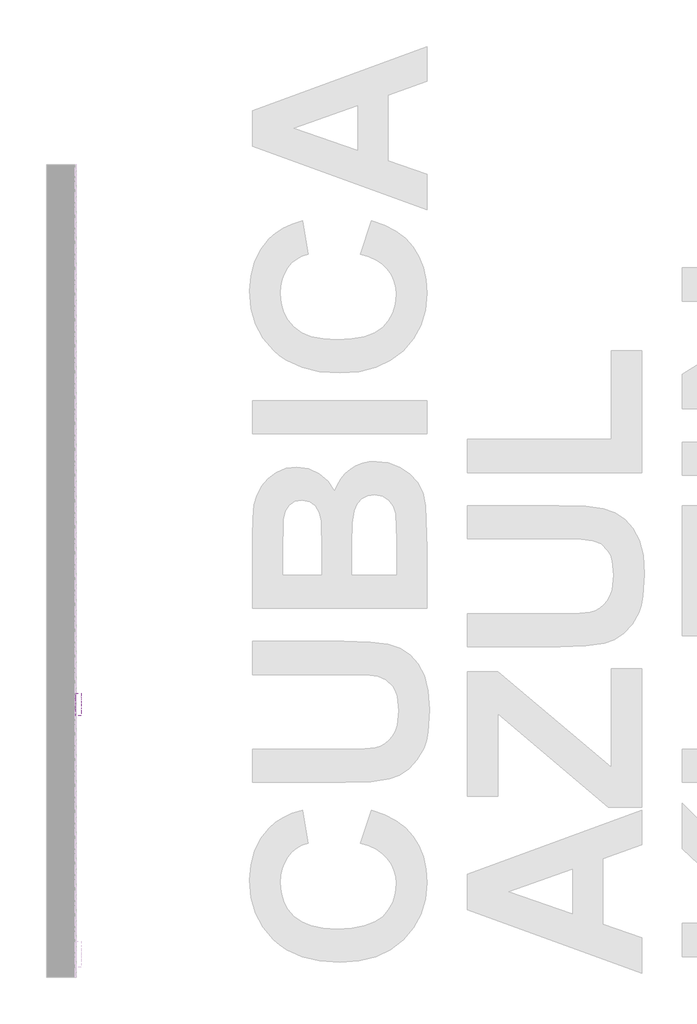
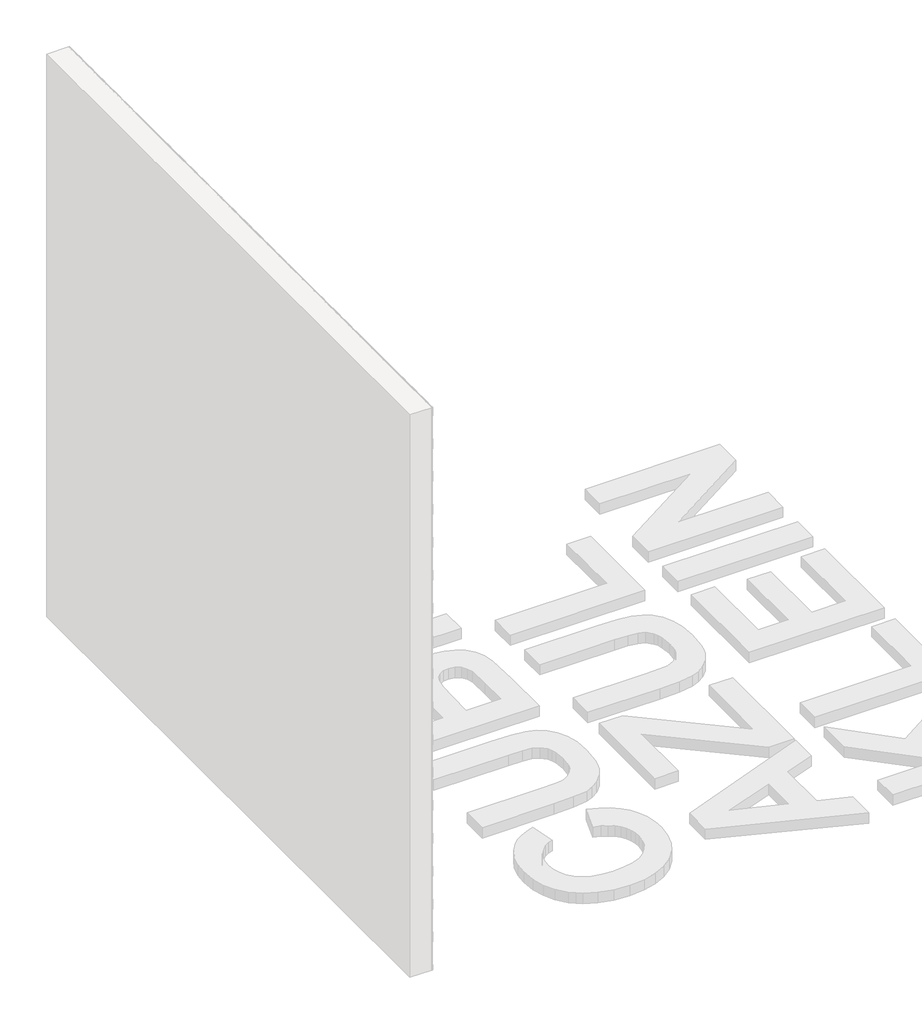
# One storey, part 42 of 121: 118 proxies.
"""IFC4 building model written with IfcOpenShell, lengths in millimetres."""

from ifc_helpers import new_model, si_unit, frame, origin, place, context, project, spatial, polyline, outline, extrude, transform, mapped, element, save
from components import generic_models_b2b2c5c1, generic_models_9bf73f6f, generic_models_5d175859, generic_models_3c04e8e5, generic_models_61989c10, generic_models_7dea52c4, generic_models_336a48c1, generic_models_95f85f1d, generic_models_e1ce04d0

model = new_model("IFC4")

# Units and contexts
model_context = context("Model", 3, world=origin())
ifc_project = project(units=[si_unit("LENGTHUNIT", "METRE", prefix="MILLI")], contexts=[model_context])

# Site, building, storey
site = spatial("IfcSite", under=ifc_project)
building = spatial("IfcBuilding", under=site)
storey = spatial("IfcBuildingStorey", under=building, Name="PORTOBELLO - SHOWROOM", Elevation=0.0)

# Proxies
placement = place(None, origin())
generic_models_shape = generic_models_b2b2c5c1(model_context)
element("IfcBuildingElementProxy", 1, Name="PBSHOP - CUBICA AZUL KLEIN 4,8X8,3 : CUBICA AZUL KLEIN - POSIÇÃO 01", ObjectType="PBSHOP - CUBICA AZUL KLEIN 4,8X8,3 : CUBICA AZUL KLEIN - POSIÇÃO 01", at=placement, inside=storey, context=model_context, shape_type="MappedRepresentation", body=[
    mapped(generic_models_shape, transform((150369.5341846, 2085.8509382, 39.4221668), x_axis=(0.0, 1.0, 0.0), y_axis=(0.0, 0.0, 1.0), z_axis=(1.0, 0.0, 0.0))),
])
element("IfcBuildingElementProxy", 2, Name="PBSHOP - CUBICA AZUL KLEIN 4,8X8,3 : CUBICA AZUL KLEIN - POSIÇÃO 01", ObjectType="PBSHOP - CUBICA AZUL KLEIN 4,8X8,3 : CUBICA AZUL KLEIN - POSIÇÃO 01", at=placement, inside=storey, context=model_context, shape_type="MappedRepresentation", body=[
    mapped(generic_models_shape, transform((150369.5341846, 2176.6902074, 39.4221668), x_axis=(0.0, 1.0, 0.0), y_axis=(0.0, 0.0, 1.0), z_axis=(1.0, 0.0, 0.0))),
])
element("IfcBuildingElementProxy", 3, Name="PBSHOP - CUBICA AZUL KLEIN 4,8X8,3 : CUBICA AZUL KLEIN - POSIÇÃO 01", ObjectType="PBSHOP - CUBICA AZUL KLEIN 4,8X8,3 : CUBICA AZUL KLEIN - POSIÇÃO 01", at=placement, inside=storey, context=model_context, shape_type="MappedRepresentation", body=[
    mapped(generic_models_shape, transform((150369.5341846, 2267.5294767, 39.4221668), x_axis=(0.0, 1.0, 0.0), y_axis=(0.0, 0.0, 1.0), z_axis=(1.0, 0.0, 0.0))),
])
element("IfcBuildingElementProxy", 4, Name="PBSHOP - CUBICA AZUL KLEIN 4,8X8,3 : CUBICA AZUL KLEIN - POSIÇÃO 01", ObjectType="PBSHOP - CUBICA AZUL KLEIN 4,8X8,3 : CUBICA AZUL KLEIN - POSIÇÃO 01", at=placement, inside=storey, context=model_context, shape_type="MappedRepresentation", body=[
    mapped(generic_models_shape, transform((150369.5341846, 2358.3687459, 39.4221668), x_axis=(0.0, 1.0, 0.0), y_axis=(0.0, 0.0, 1.0), z_axis=(1.0, 0.0, 0.0))),
])
element("IfcBuildingElementProxy", 5, Name="PBSHOP - CUBICA AZUL KLEIN 4,8X8,3 : CUBICA AZUL KLEIN - POSIÇÃO 01", ObjectType="PBSHOP - CUBICA AZUL KLEIN 4,8X8,3 : CUBICA AZUL KLEIN - POSIÇÃO 01", at=placement, inside=storey, context=model_context, shape_type="MappedRepresentation", body=[
    mapped(generic_models_shape, transform((150369.5341846, 2449.2080152, 39.4221668), x_axis=(0.0, 1.0, 0.0), y_axis=(0.0, 0.0, 1.0), z_axis=(1.0, 0.0, 0.0))),
])
element("IfcBuildingElementProxy", 6, Name="PBSHOP - CUBICA AZUL KLEIN 4,8X8,3 : CUBICA AZUL KLEIN - POSIÇÃO 01", ObjectType="PBSHOP - CUBICA AZUL KLEIN 4,8X8,3 : CUBICA AZUL KLEIN - POSIÇÃO 01", at=placement, inside=storey, context=model_context, shape_type="MappedRepresentation", body=[
    mapped(generic_models_shape, transform((150369.5341846, 2540.0472844, 39.4221668), x_axis=(0.0, 1.0, 0.0), y_axis=(0.0, 0.0, 1.0), z_axis=(1.0, 0.0, 0.0))),
])
element("IfcBuildingElementProxy", 7, Name="PBSHOP - CUBICA AZUL KLEIN 4,8X8,3 : CUBICA AZUL KLEIN - POSIÇÃO 01", ObjectType="PBSHOP - CUBICA AZUL KLEIN 4,8X8,3 : CUBICA AZUL KLEIN - POSIÇÃO 01", at=placement, inside=storey, context=model_context, shape_type="MappedRepresentation", body=[
    mapped(generic_models_shape, transform((150369.5341846, 2630.8865536, 39.4221668), x_axis=(0.0, 1.0, 0.0), y_axis=(0.0, 0.0, 1.0), z_axis=(1.0, 0.0, 0.0))),
])
element("IfcBuildingElementProxy", 8, Name="PBSHOP - CUBICA AZUL KLEIN 4,8X8,3 : CUBICA AZUL KLEIN - POSIÇÃO 01", ObjectType="PBSHOP - CUBICA AZUL KLEIN 4,8X8,3 : CUBICA AZUL KLEIN - POSIÇÃO 01", at=placement, inside=storey, context=model_context, shape_type="MappedRepresentation", body=[
    mapped(generic_models_shape, transform((150369.5341846, 2721.7258229, 39.4221668), x_axis=(0.0, 1.0, 0.0), y_axis=(0.0, 0.0, 1.0), z_axis=(1.0, 0.0, 0.0))),
])
element("IfcBuildingElementProxy", 9, Name="PBSHOP - CUBICA AZUL KLEIN 4,8X8,3 : CUBICA AZUL KLEIN - POSIÇÃO 01", ObjectType="PBSHOP - CUBICA AZUL KLEIN 4,8X8,3 : CUBICA AZUL KLEIN - POSIÇÃO 01", at=placement, inside=storey, context=model_context, shape_type="MappedRepresentation", body=[
    mapped(generic_models_shape, transform((150369.5341846, 2040.4313036, 118.3568052), x_axis=(0.0, 1.0, 0.0), y_axis=(0.0, 0.0, 1.0), z_axis=(1.0, 0.0, 0.0))),
])
element("IfcBuildingElementProxy", 10, Name="PBSHOP - CUBICA AZUL KLEIN 4,8X8,3 : CUBICA AZUL KLEIN - POSIÇÃO 01", ObjectType="PBSHOP - CUBICA AZUL KLEIN 4,8X8,3 : CUBICA AZUL KLEIN - POSIÇÃO 01", at=placement, inside=storey, context=model_context, shape_type="MappedRepresentation", body=[
    mapped(generic_models_shape, transform((150369.5341846, 2131.2705728, 118.3568052), x_axis=(0.0, 1.0, 0.0), y_axis=(0.0, 0.0, 1.0), z_axis=(1.0, 0.0, 0.0))),
])
element("IfcBuildingElementProxy", 11, Name="PBSHOP - CUBICA AZUL KLEIN 4,8X8,3 : CUBICA AZUL KLEIN - POSIÇÃO 01", ObjectType="PBSHOP - CUBICA AZUL KLEIN 4,8X8,3 : CUBICA AZUL KLEIN - POSIÇÃO 01", at=placement, inside=storey, context=model_context, shape_type="MappedRepresentation", body=[
    mapped(generic_models_shape, transform((150369.5341846, 2222.109842, 118.3568052), x_axis=(0.0, 1.0, 0.0), y_axis=(0.0, 0.0, 1.0), z_axis=(1.0, 0.0, 0.0))),
])
element("IfcBuildingElementProxy", 12, Name="PBSHOP - CUBICA AZUL KLEIN 4,8X8,3 : CUBICA AZUL KLEIN - POSIÇÃO 01", ObjectType="PBSHOP - CUBICA AZUL KLEIN 4,8X8,3 : CUBICA AZUL KLEIN - POSIÇÃO 01", at=placement, inside=storey, context=model_context, shape_type="MappedRepresentation", body=[
    mapped(generic_models_shape, transform((150369.5341846, 2312.9491113, 118.3568052), x_axis=(0.0, 1.0, 0.0), y_axis=(0.0, 0.0, 1.0), z_axis=(1.0, 0.0, 0.0))),
])
element("IfcBuildingElementProxy", 13, Name="PBSHOP - CUBICA AZUL KLEIN 4,8X8,3 : CUBICA AZUL KLEIN - POSIÇÃO 01", ObjectType="PBSHOP - CUBICA AZUL KLEIN 4,8X8,3 : CUBICA AZUL KLEIN - POSIÇÃO 01", at=placement, inside=storey, context=model_context, shape_type="MappedRepresentation", body=[
    mapped(generic_models_shape, transform((150369.5341846, 2403.7883805, 118.3568052), x_axis=(0.0, 1.0, 0.0), y_axis=(0.0, 0.0, 1.0), z_axis=(1.0, 0.0, 0.0))),
])
element("IfcBuildingElementProxy", 14, Name="PBSHOP - CUBICA AZUL KLEIN 4,8X8,3 : CUBICA AZUL KLEIN - POSIÇÃO 01", ObjectType="PBSHOP - CUBICA AZUL KLEIN 4,8X8,3 : CUBICA AZUL KLEIN - POSIÇÃO 01", at=placement, inside=storey, context=model_context, shape_type="MappedRepresentation", body=[
    mapped(generic_models_shape, transform((150369.5341846, 2494.6276498, 118.3568052), x_axis=(0.0, 1.0, 0.0), y_axis=(0.0, 0.0, 1.0), z_axis=(1.0, 0.0, 0.0))),
])
element("IfcBuildingElementProxy", 15, Name="PBSHOP - CUBICA AZUL KLEIN 4,8X8,3 : CUBICA AZUL KLEIN - POSIÇÃO 01", ObjectType="PBSHOP - CUBICA AZUL KLEIN 4,8X8,3 : CUBICA AZUL KLEIN - POSIÇÃO 01", at=placement, inside=storey, context=model_context, shape_type="MappedRepresentation", body=[
    mapped(generic_models_shape, transform((150369.5341846, 2585.466919, 118.3568052), x_axis=(0.0, 1.0, 0.0), y_axis=(0.0, 0.0, 1.0), z_axis=(1.0, 0.0, 0.0))),
])
element("IfcBuildingElementProxy", 16, Name="PBSHOP - CUBICA AZUL KLEIN 4,8X8,3 : CUBICA AZUL KLEIN - POSIÇÃO 01", ObjectType="PBSHOP - CUBICA AZUL KLEIN 4,8X8,3 : CUBICA AZUL KLEIN - POSIÇÃO 01", at=placement, inside=storey, context=model_context, shape_type="MappedRepresentation", body=[
    mapped(generic_models_shape, transform((150369.5341846, 2676.3061883, 118.3568052), x_axis=(0.0, 1.0, 0.0), y_axis=(0.0, 0.0, 1.0), z_axis=(1.0, 0.0, 0.0))),
])
element("IfcBuildingElementProxy", 17, Name="PBSHOP - CUBICA AZUL KLEIN 4,8X8,3 : CUBICA AZUL KLEIN - POSIÇÃO 01", ObjectType="PBSHOP - CUBICA AZUL KLEIN 4,8X8,3 : CUBICA AZUL KLEIN - POSIÇÃO 01", at=placement, inside=storey, context=model_context, shape_type="MappedRepresentation", body=[
    mapped(generic_models_shape, transform((150369.5341846, 2767.1454575, 118.3568052), x_axis=(0.0, 1.0, 0.0), y_axis=(0.0, 0.0, 1.0), z_axis=(1.0, 0.0, 0.0))),
])
element("IfcBuildingElementProxy", 18, Name="PBSHOP - CUBICA AZUL KLEIN 4,8X8,3 : CUBICA AZUL KLEIN - POSIÇÃO 01", ObjectType="PBSHOP - CUBICA AZUL KLEIN 4,8X8,3 : CUBICA AZUL KLEIN - POSIÇÃO 01", at=placement, inside=storey, context=model_context, shape_type="MappedRepresentation", body=[
    mapped(generic_models_shape, transform((150369.5341846, 2085.8509382, 197.2914436), x_axis=(0.0, 1.0, 0.0), y_axis=(0.0, 0.0, 1.0), z_axis=(1.0, 0.0, 0.0))),
])
element("IfcBuildingElementProxy", 19, Name="PBSHOP - CUBICA AZUL KLEIN 4,8X8,3 : CUBICA AZUL KLEIN - POSIÇÃO 01", ObjectType="PBSHOP - CUBICA AZUL KLEIN 4,8X8,3 : CUBICA AZUL KLEIN - POSIÇÃO 01", at=placement, inside=storey, context=model_context, shape_type="MappedRepresentation", body=[
    mapped(generic_models_shape, transform((150369.5341846, 2176.6902074, 197.2914436), x_axis=(0.0, 1.0, 0.0), y_axis=(0.0, 0.0, 1.0), z_axis=(1.0, 0.0, 0.0))),
])
element("IfcBuildingElementProxy", 20, Name="PBSHOP - CUBICA AZUL KLEIN 4,8X8,3 : CUBICA AZUL KLEIN - POSIÇÃO 01", ObjectType="PBSHOP - CUBICA AZUL KLEIN 4,8X8,3 : CUBICA AZUL KLEIN - POSIÇÃO 01", at=placement, inside=storey, context=model_context, shape_type="MappedRepresentation", body=[
    mapped(generic_models_shape, transform((150369.5341846, 2267.5294767, 197.2914436), x_axis=(0.0, 1.0, 0.0), y_axis=(0.0, 0.0, 1.0), z_axis=(1.0, 0.0, 0.0))),
])
element("IfcBuildingElementProxy", 21, Name="PBSHOP - CUBICA AZUL KLEIN 4,8X8,3 : CUBICA AZUL KLEIN - POSIÇÃO 01", ObjectType="PBSHOP - CUBICA AZUL KLEIN 4,8X8,3 : CUBICA AZUL KLEIN - POSIÇÃO 01", at=placement, inside=storey, context=model_context, shape_type="MappedRepresentation", body=[
    mapped(generic_models_shape, transform((150369.5341846, 2358.3687459, 197.2914436), x_axis=(0.0, 1.0, 0.0), y_axis=(0.0, 0.0, 1.0), z_axis=(1.0, 0.0, 0.0))),
])
element("IfcBuildingElementProxy", 22, Name="PBSHOP - CUBICA AZUL KLEIN 4,8X8,3 : CUBICA AZUL KLEIN - POSIÇÃO 01", ObjectType="PBSHOP - CUBICA AZUL KLEIN 4,8X8,3 : CUBICA AZUL KLEIN - POSIÇÃO 01", at=placement, inside=storey, context=model_context, shape_type="MappedRepresentation", body=[
    mapped(generic_models_shape, transform((150369.5341846, 2449.2080152, 197.2914436), x_axis=(0.0, 1.0, 0.0), y_axis=(0.0, 0.0, 1.0), z_axis=(1.0, 0.0, 0.0))),
])
element("IfcBuildingElementProxy", 23, Name="PBSHOP - CUBICA AZUL KLEIN 4,8X8,3 : CUBICA AZUL KLEIN - POSIÇÃO 01", ObjectType="PBSHOP - CUBICA AZUL KLEIN 4,8X8,3 : CUBICA AZUL KLEIN - POSIÇÃO 01", at=placement, inside=storey, context=model_context, shape_type="MappedRepresentation", body=[
    mapped(generic_models_shape, transform((150369.5341846, 2540.0472844, 197.2914436), x_axis=(0.0, 1.0, 0.0), y_axis=(0.0, 0.0, 1.0), z_axis=(1.0, 0.0, 0.0))),
])
element("IfcBuildingElementProxy", 24, Name="PBSHOP - CUBICA AZUL KLEIN 4,8X8,3 : CUBICA AZUL KLEIN - POSIÇÃO 01", ObjectType="PBSHOP - CUBICA AZUL KLEIN 4,8X8,3 : CUBICA AZUL KLEIN - POSIÇÃO 01", at=placement, inside=storey, context=model_context, shape_type="MappedRepresentation", body=[
    mapped(generic_models_shape, transform((150369.5341846, 2630.8865536, 197.2914436), x_axis=(0.0, 1.0, 0.0), y_axis=(0.0, 0.0, 1.0), z_axis=(1.0, 0.0, 0.0))),
])
element("IfcBuildingElementProxy", 25, Name="PBSHOP - CUBICA AZUL KLEIN 4,8X8,3 : CUBICA AZUL KLEIN - POSIÇÃO 01", ObjectType="PBSHOP - CUBICA AZUL KLEIN 4,8X8,3 : CUBICA AZUL KLEIN - POSIÇÃO 01", at=placement, inside=storey, context=model_context, shape_type="MappedRepresentation", body=[
    mapped(generic_models_shape, transform((150369.5341846, 2721.7258229, 197.2914436), x_axis=(0.0, 1.0, 0.0), y_axis=(0.0, 0.0, 1.0), z_axis=(1.0, 0.0, 0.0))),
])
element("IfcBuildingElementProxy", 26, Name="PBSHOP - CUBICA AZUL KLEIN 4,8X8,3 : CUBICA AZUL KLEIN - POSIÇÃO 01", ObjectType="PBSHOP - CUBICA AZUL KLEIN 4,8X8,3 : CUBICA AZUL KLEIN - POSIÇÃO 01", at=placement, inside=storey, context=model_context, shape_type="MappedRepresentation", body=[
    mapped(generic_models_shape, transform((150369.5341846, 2040.4313036, 276.2260819), x_axis=(0.0, 1.0, 0.0), y_axis=(0.0, 0.0, 1.0), z_axis=(1.0, 0.0, 0.0))),
])
element("IfcBuildingElementProxy", 27, Name="PBSHOP - CUBICA AZUL KLEIN 4,8X8,3 : CUBICA AZUL KLEIN - POSIÇÃO 01", ObjectType="PBSHOP - CUBICA AZUL KLEIN 4,8X8,3 : CUBICA AZUL KLEIN - POSIÇÃO 01", at=placement, inside=storey, context=model_context, shape_type="MappedRepresentation", body=[
    mapped(generic_models_shape, transform((150369.5341846, 2131.2705728, 276.2260819), x_axis=(0.0, 1.0, 0.0), y_axis=(0.0, 0.0, 1.0), z_axis=(1.0, 0.0, 0.0))),
])
element("IfcBuildingElementProxy", 28, Name="PBSHOP - CUBICA AZUL KLEIN 4,8X8,3 : CUBICA AZUL KLEIN - POSIÇÃO 01", ObjectType="PBSHOP - CUBICA AZUL KLEIN 4,8X8,3 : CUBICA AZUL KLEIN - POSIÇÃO 01", at=placement, inside=storey, context=model_context, shape_type="MappedRepresentation", body=[
    mapped(generic_models_shape, transform((150369.5341846, 2222.109842, 276.2260819), x_axis=(0.0, 1.0, 0.0), y_axis=(0.0, 0.0, 1.0), z_axis=(1.0, 0.0, 0.0))),
])
element("IfcBuildingElementProxy", 29, Name="PBSHOP - CUBICA AZUL KLEIN 4,8X8,3 : CUBICA AZUL KLEIN - POSIÇÃO 01", ObjectType="PBSHOP - CUBICA AZUL KLEIN 4,8X8,3 : CUBICA AZUL KLEIN - POSIÇÃO 01", at=placement, inside=storey, context=model_context, shape_type="MappedRepresentation", body=[
    mapped(generic_models_shape, transform((150369.5341846, 2312.9491113, 276.2260819), x_axis=(0.0, 1.0, 0.0), y_axis=(0.0, 0.0, 1.0), z_axis=(1.0, 0.0, 0.0))),
])
element("IfcBuildingElementProxy", 30, Name="PBSHOP - CUBICA AZUL KLEIN 4,8X8,3 : CUBICA AZUL KLEIN - POSIÇÃO 01", ObjectType="PBSHOP - CUBICA AZUL KLEIN 4,8X8,3 : CUBICA AZUL KLEIN - POSIÇÃO 01", at=placement, inside=storey, context=model_context, shape_type="MappedRepresentation", body=[
    mapped(generic_models_shape, transform((150369.5341846, 2403.7883805, 276.2260819), x_axis=(0.0, 1.0, 0.0), y_axis=(0.0, 0.0, 1.0), z_axis=(1.0, 0.0, 0.0))),
])
element("IfcBuildingElementProxy", 31, Name="PBSHOP - CUBICA AZUL KLEIN 4,8X8,3 : CUBICA AZUL KLEIN - POSIÇÃO 01", ObjectType="PBSHOP - CUBICA AZUL KLEIN 4,8X8,3 : CUBICA AZUL KLEIN - POSIÇÃO 01", at=placement, inside=storey, context=model_context, shape_type="MappedRepresentation", body=[
    mapped(generic_models_shape, transform((150369.5341846, 2494.6276498, 276.2260819), x_axis=(0.0, 1.0, 0.0), y_axis=(0.0, 0.0, 1.0), z_axis=(1.0, 0.0, 0.0))),
])
element("IfcBuildingElementProxy", 32, Name="PBSHOP - CUBICA AZUL KLEIN 4,8X8,3 : CUBICA AZUL KLEIN - POSIÇÃO 01", ObjectType="PBSHOP - CUBICA AZUL KLEIN 4,8X8,3 : CUBICA AZUL KLEIN - POSIÇÃO 01", at=placement, inside=storey, context=model_context, shape_type="MappedRepresentation", body=[
    mapped(generic_models_shape, transform((150369.5341846, 2585.466919, 276.2260819), x_axis=(0.0, 1.0, 0.0), y_axis=(0.0, 0.0, 1.0), z_axis=(1.0, 0.0, 0.0))),
])
element("IfcBuildingElementProxy", 33, Name="PBSHOP - CUBICA AZUL KLEIN 4,8X8,3 : CUBICA AZUL KLEIN - POSIÇÃO 01", ObjectType="PBSHOP - CUBICA AZUL KLEIN 4,8X8,3 : CUBICA AZUL KLEIN - POSIÇÃO 01", at=placement, inside=storey, context=model_context, shape_type="MappedRepresentation", body=[
    mapped(generic_models_shape, transform((150369.5341846, 2676.3061883, 276.2260819), x_axis=(0.0, 1.0, 0.0), y_axis=(0.0, 0.0, 1.0), z_axis=(1.0, 0.0, 0.0))),
])
element("IfcBuildingElementProxy", 34, Name="PBSHOP - CUBICA AZUL KLEIN 4,8X8,3 : CUBICA AZUL KLEIN - POSIÇÃO 01", ObjectType="PBSHOP - CUBICA AZUL KLEIN 4,8X8,3 : CUBICA AZUL KLEIN - POSIÇÃO 01", at=placement, inside=storey, context=model_context, shape_type="MappedRepresentation", body=[
    mapped(generic_models_shape, transform((150369.5341846, 2767.1454575, 276.2260819), x_axis=(0.0, 1.0, 0.0), y_axis=(0.0, 0.0, 1.0), z_axis=(1.0, 0.0, 0.0))),
])
element("IfcBuildingElementProxy", 35, Name="PBSHOP - CUBICA AZUL KLEIN 4,8X8,3 : CUBICA AZUL KLEIN - POSIÇÃO 01", ObjectType="PBSHOP - CUBICA AZUL KLEIN 4,8X8,3 : CUBICA AZUL KLEIN - POSIÇÃO 01", at=placement, inside=storey, context=model_context, shape_type="MappedRepresentation", body=[
    mapped(generic_models_shape, transform((150369.5341846, 2085.8509382, 355.1607203), x_axis=(0.0, 1.0, 0.0), y_axis=(0.0, 0.0, 1.0), z_axis=(1.0, 0.0, 0.0))),
])
element("IfcBuildingElementProxy", 36, Name="PBSHOP - CUBICA AZUL KLEIN 4,8X8,3 : CUBICA AZUL KLEIN - POSIÇÃO 01", ObjectType="PBSHOP - CUBICA AZUL KLEIN 4,8X8,3 : CUBICA AZUL KLEIN - POSIÇÃO 01", at=placement, inside=storey, context=model_context, shape_type="MappedRepresentation", body=[
    mapped(generic_models_shape, transform((150369.5341846, 2176.6902074, 355.1607203), x_axis=(0.0, 1.0, 0.0), y_axis=(0.0, 0.0, 1.0), z_axis=(1.0, 0.0, 0.0))),
])
element("IfcBuildingElementProxy", 37, Name="PBSHOP - CUBICA AZUL KLEIN 4,8X8,3 : CUBICA AZUL KLEIN - POSIÇÃO 01", ObjectType="PBSHOP - CUBICA AZUL KLEIN 4,8X8,3 : CUBICA AZUL KLEIN - POSIÇÃO 01", at=placement, inside=storey, context=model_context, shape_type="MappedRepresentation", body=[
    mapped(generic_models_shape, transform((150369.5341846, 2267.5294767, 355.1607203), x_axis=(0.0, 1.0, 0.0), y_axis=(0.0, 0.0, 1.0), z_axis=(1.0, 0.0, 0.0))),
])
generic_models_2_shape = generic_models_9bf73f6f(model_context)
element("IfcBuildingElementProxy", 38, Name="PBSHOP - CUBICA AZUL KLEIN 4,8X8,3 : CUBICA AZUL KLEIN - POSIÇÃO 03", ObjectType="PBSHOP - CUBICA AZUL KLEIN 4,8X8,3 : CUBICA AZUL KLEIN - POSIÇÃO 03", at=placement, inside=storey, context=model_context, shape_type="MappedRepresentation", body=[
    mapped(generic_models_2_shape, transform((150369.5341846, 2017.7236454, 78.8482756), x_axis=(0.0, 1.0, 0.0), y_axis=(0.0, 0.0, 1.0), z_axis=(1.0, 0.0, 0.0))),
])
element("IfcBuildingElementProxy", 39, Name="PBSHOP - CUBICA AZUL KLEIN 4,8X8,3 : CUBICA AZUL KLEIN - POSIÇÃO 03", ObjectType="PBSHOP - CUBICA AZUL KLEIN 4,8X8,3 : CUBICA AZUL KLEIN - POSIÇÃO 03", at=placement, inside=storey, context=model_context, shape_type="MappedRepresentation", body=[
    mapped(generic_models_2_shape, transform((150369.5341846, 2108.5629147, 78.8482756), x_axis=(0.0, 1.0, 0.0), y_axis=(0.0, 0.0, 1.0), z_axis=(1.0, 0.0, 0.0))),
])
element("IfcBuildingElementProxy", 40, Name="PBSHOP - CUBICA AZUL KLEIN 4,8X8,3 : CUBICA AZUL KLEIN - POSIÇÃO 03", ObjectType="PBSHOP - CUBICA AZUL KLEIN 4,8X8,3 : CUBICA AZUL KLEIN - POSIÇÃO 03", at=placement, inside=storey, context=model_context, shape_type="MappedRepresentation", body=[
    mapped(generic_models_2_shape, transform((150369.5341846, 2199.4021839, 78.8482756), x_axis=(0.0, 1.0, 0.0), y_axis=(0.0, 0.0, 1.0), z_axis=(1.0, 0.0, 0.0))),
])
element("IfcBuildingElementProxy", 41, Name="PBSHOP - CUBICA AZUL KLEIN 4,8X8,3 : CUBICA AZUL KLEIN - POSIÇÃO 03", ObjectType="PBSHOP - CUBICA AZUL KLEIN 4,8X8,3 : CUBICA AZUL KLEIN - POSIÇÃO 03", at=placement, inside=storey, context=model_context, shape_type="MappedRepresentation", body=[
    mapped(generic_models_2_shape, transform((150369.5341846, 2290.2414531, 78.8482756), x_axis=(0.0, 1.0, 0.0), y_axis=(0.0, 0.0, 1.0), z_axis=(1.0, 0.0, 0.0))),
])
element("IfcBuildingElementProxy", 42, Name="PBSHOP - CUBICA AZUL KLEIN 4,8X8,3 : CUBICA AZUL KLEIN - POSIÇÃO 03", ObjectType="PBSHOP - CUBICA AZUL KLEIN 4,8X8,3 : CUBICA AZUL KLEIN - POSIÇÃO 03", at=placement, inside=storey, context=model_context, shape_type="MappedRepresentation", body=[
    mapped(generic_models_2_shape, transform((150369.5341846, 2381.0807224, 78.8482756), x_axis=(0.0, 1.0, 0.0), y_axis=(0.0, 0.0, 1.0), z_axis=(1.0, 0.0, 0.0))),
])
element("IfcBuildingElementProxy", 43, Name="PBSHOP - CUBICA AZUL KLEIN 4,8X8,3 : CUBICA AZUL KLEIN - POSIÇÃO 03", ObjectType="PBSHOP - CUBICA AZUL KLEIN 4,8X8,3 : CUBICA AZUL KLEIN - POSIÇÃO 03", at=placement, inside=storey, context=model_context, shape_type="MappedRepresentation", body=[
    mapped(generic_models_2_shape, transform((150369.5341846, 2471.9199916, 78.8482756), x_axis=(0.0, 1.0, 0.0), y_axis=(0.0, 0.0, 1.0), z_axis=(1.0, 0.0, 0.0))),
])
element("IfcBuildingElementProxy", 44, Name="PBSHOP - CUBICA AZUL KLEIN 4,8X8,3 : CUBICA AZUL KLEIN - POSIÇÃO 03", ObjectType="PBSHOP - CUBICA AZUL KLEIN 4,8X8,3 : CUBICA AZUL KLEIN - POSIÇÃO 03", at=placement, inside=storey, context=model_context, shape_type="MappedRepresentation", body=[
    mapped(generic_models_2_shape, transform((150369.5341846, 2562.7592609, 78.8482756), x_axis=(0.0, 1.0, 0.0), y_axis=(0.0, 0.0, 1.0), z_axis=(1.0, 0.0, 0.0))),
])
element("IfcBuildingElementProxy", 45, Name="PBSHOP - CUBICA AZUL KLEIN 4,8X8,3 : CUBICA AZUL KLEIN - POSIÇÃO 03", ObjectType="PBSHOP - CUBICA AZUL KLEIN 4,8X8,3 : CUBICA AZUL KLEIN - POSIÇÃO 03", at=placement, inside=storey, context=model_context, shape_type="MappedRepresentation", body=[
    mapped(generic_models_2_shape, transform((150369.5341846, 2653.5985301, 78.8482756), x_axis=(0.0, 1.0, 0.0), y_axis=(0.0, 0.0, 1.0), z_axis=(1.0, 0.0, 0.0))),
])
element("IfcBuildingElementProxy", 46, Name="PBSHOP - CUBICA AZUL KLEIN 4,8X8,3 : CUBICA AZUL KLEIN - POSIÇÃO 03", ObjectType="PBSHOP - CUBICA AZUL KLEIN 4,8X8,3 : CUBICA AZUL KLEIN - POSIÇÃO 03", at=placement, inside=storey, context=model_context, shape_type="MappedRepresentation", body=[
    mapped(generic_models_2_shape, transform((150369.5341846, 2744.4377994, 78.8482756), x_axis=(0.0, 1.0, 0.0), y_axis=(0.0, 0.0, 1.0), z_axis=(1.0, 0.0, 0.0))),
])
element("IfcBuildingElementProxy", 47, Name="PBSHOP - CUBICA AZUL KLEIN 4,8X8,3 : CUBICA AZUL KLEIN - POSIÇÃO 03", ObjectType="PBSHOP - CUBICA AZUL KLEIN 4,8X8,3 : CUBICA AZUL KLEIN - POSIÇÃO 03", at=placement, inside=storey, context=model_context, shape_type="MappedRepresentation", body=[
    mapped(generic_models_2_shape, transform((150369.5341846, 2063.14328, 157.7829139), x_axis=(0.0, 1.0, 0.0), y_axis=(0.0, 0.0, 1.0), z_axis=(1.0, 0.0, 0.0))),
])
element("IfcBuildingElementProxy", 48, Name="PBSHOP - CUBICA AZUL KLEIN 4,8X8,3 : CUBICA AZUL KLEIN - POSIÇÃO 03", ObjectType="PBSHOP - CUBICA AZUL KLEIN 4,8X8,3 : CUBICA AZUL KLEIN - POSIÇÃO 03", at=placement, inside=storey, context=model_context, shape_type="MappedRepresentation", body=[
    mapped(generic_models_2_shape, transform((150369.5341846, 2153.9825493, 157.7829139), x_axis=(0.0, 1.0, 0.0), y_axis=(0.0, 0.0, 1.0), z_axis=(1.0, 0.0, 0.0))),
])
element("IfcBuildingElementProxy", 49, Name="PBSHOP - CUBICA AZUL KLEIN 4,8X8,3 : CUBICA AZUL KLEIN - POSIÇÃO 03", ObjectType="PBSHOP - CUBICA AZUL KLEIN 4,8X8,3 : CUBICA AZUL KLEIN - POSIÇÃO 03", at=placement, inside=storey, context=model_context, shape_type="MappedRepresentation", body=[
    mapped(generic_models_2_shape, transform((150369.5341846, 2244.8218185, 157.7829139), x_axis=(0.0, 1.0, 0.0), y_axis=(0.0, 0.0, 1.0), z_axis=(1.0, 0.0, 0.0))),
])
element("IfcBuildingElementProxy", 50, Name="PBSHOP - CUBICA AZUL KLEIN 4,8X8,3 : CUBICA AZUL KLEIN - POSIÇÃO 03", ObjectType="PBSHOP - CUBICA AZUL KLEIN 4,8X8,3 : CUBICA AZUL KLEIN - POSIÇÃO 03", at=placement, inside=storey, context=model_context, shape_type="MappedRepresentation", body=[
    mapped(generic_models_2_shape, transform((150369.5341846, 2335.6610878, 157.7829139), x_axis=(0.0, 1.0, 0.0), y_axis=(0.0, 0.0, 1.0), z_axis=(1.0, 0.0, 0.0))),
])
element("IfcBuildingElementProxy", 51, Name="PBSHOP - CUBICA AZUL KLEIN 4,8X8,3 : CUBICA AZUL KLEIN - POSIÇÃO 03", ObjectType="PBSHOP - CUBICA AZUL KLEIN 4,8X8,3 : CUBICA AZUL KLEIN - POSIÇÃO 03", at=placement, inside=storey, context=model_context, shape_type="MappedRepresentation", body=[
    mapped(generic_models_2_shape, transform((150369.5341846, 2426.500357, 157.7829139), x_axis=(0.0, 1.0, 0.0), y_axis=(0.0, 0.0, 1.0), z_axis=(1.0, 0.0, 0.0))),
])
element("IfcBuildingElementProxy", 52, Name="PBSHOP - CUBICA AZUL KLEIN 4,8X8,3 : CUBICA AZUL KLEIN - POSIÇÃO 03", ObjectType="PBSHOP - CUBICA AZUL KLEIN 4,8X8,3 : CUBICA AZUL KLEIN - POSIÇÃO 03", at=placement, inside=storey, context=model_context, shape_type="MappedRepresentation", body=[
    mapped(generic_models_2_shape, transform((150369.5341846, 2517.3396263, 157.7829139), x_axis=(0.0, 1.0, 0.0), y_axis=(0.0, 0.0, 1.0), z_axis=(1.0, 0.0, 0.0))),
])
element("IfcBuildingElementProxy", 53, Name="PBSHOP - CUBICA AZUL KLEIN 4,8X8,3 : CUBICA AZUL KLEIN - POSIÇÃO 03", ObjectType="PBSHOP - CUBICA AZUL KLEIN 4,8X8,3 : CUBICA AZUL KLEIN - POSIÇÃO 03", at=placement, inside=storey, context=model_context, shape_type="MappedRepresentation", body=[
    mapped(generic_models_2_shape, transform((150369.5341846, 2608.1788955, 157.7829139), x_axis=(0.0, 1.0, 0.0), y_axis=(0.0, 0.0, 1.0), z_axis=(1.0, 0.0, 0.0))),
])
element("IfcBuildingElementProxy", 54, Name="PBSHOP - CUBICA AZUL KLEIN 4,8X8,3 : CUBICA AZUL KLEIN - POSIÇÃO 03", ObjectType="PBSHOP - CUBICA AZUL KLEIN 4,8X8,3 : CUBICA AZUL KLEIN - POSIÇÃO 03", at=placement, inside=storey, context=model_context, shape_type="MappedRepresentation", body=[
    mapped(generic_models_2_shape, transform((150369.5341846, 2699.0181647, 157.7829139), x_axis=(0.0, 1.0, 0.0), y_axis=(0.0, 0.0, 1.0), z_axis=(1.0, 0.0, 0.0))),
])
element("IfcBuildingElementProxy", 55, Name="PBSHOP - CUBICA AZUL KLEIN 4,8X8,3 : CUBICA AZUL KLEIN - POSIÇÃO 03", ObjectType="PBSHOP - CUBICA AZUL KLEIN 4,8X8,3 : CUBICA AZUL KLEIN - POSIÇÃO 03", at=placement, inside=storey, context=model_context, shape_type="MappedRepresentation", body=[
    mapped(generic_models_2_shape, transform((150369.5341846, 2017.7236454, 236.7175523), x_axis=(0.0, 1.0, 0.0), y_axis=(0.0, 0.0, 1.0), z_axis=(1.0, 0.0, 0.0))),
])
element("IfcBuildingElementProxy", 56, Name="PBSHOP - CUBICA AZUL KLEIN 4,8X8,3 : CUBICA AZUL KLEIN - POSIÇÃO 03", ObjectType="PBSHOP - CUBICA AZUL KLEIN 4,8X8,3 : CUBICA AZUL KLEIN - POSIÇÃO 03", at=placement, inside=storey, context=model_context, shape_type="MappedRepresentation", body=[
    mapped(generic_models_2_shape, transform((150369.5341846, 2108.5629147, 236.7175523), x_axis=(0.0, 1.0, 0.0), y_axis=(0.0, 0.0, 1.0), z_axis=(1.0, 0.0, 0.0))),
])
element("IfcBuildingElementProxy", 57, Name="PBSHOP - CUBICA AZUL KLEIN 4,8X8,3 : CUBICA AZUL KLEIN - POSIÇÃO 03", ObjectType="PBSHOP - CUBICA AZUL KLEIN 4,8X8,3 : CUBICA AZUL KLEIN - POSIÇÃO 03", at=placement, inside=storey, context=model_context, shape_type="MappedRepresentation", body=[
    mapped(generic_models_2_shape, transform((150369.5341846, 2199.4021839, 236.7175523), x_axis=(0.0, 1.0, 0.0), y_axis=(0.0, 0.0, 1.0), z_axis=(1.0, 0.0, 0.0))),
])
element("IfcBuildingElementProxy", 58, Name="PBSHOP - CUBICA AZUL KLEIN 4,8X8,3 : CUBICA AZUL KLEIN - POSIÇÃO 03", ObjectType="PBSHOP - CUBICA AZUL KLEIN 4,8X8,3 : CUBICA AZUL KLEIN - POSIÇÃO 03", at=placement, inside=storey, context=model_context, shape_type="MappedRepresentation", body=[
    mapped(generic_models_2_shape, transform((150369.5341846, 2290.2414531, 236.7175523), x_axis=(0.0, 1.0, 0.0), y_axis=(0.0, 0.0, 1.0), z_axis=(1.0, 0.0, 0.0))),
])
element("IfcBuildingElementProxy", 59, Name="PBSHOP - CUBICA AZUL KLEIN 4,8X8,3 : CUBICA AZUL KLEIN - POSIÇÃO 03", ObjectType="PBSHOP - CUBICA AZUL KLEIN 4,8X8,3 : CUBICA AZUL KLEIN - POSIÇÃO 03", at=placement, inside=storey, context=model_context, shape_type="MappedRepresentation", body=[
    mapped(generic_models_2_shape, transform((150369.5341846, 2381.0807224, 236.7175523), x_axis=(0.0, 1.0, 0.0), y_axis=(0.0, 0.0, 1.0), z_axis=(1.0, 0.0, 0.0))),
])
element("IfcBuildingElementProxy", 60, Name="PBSHOP - CUBICA AZUL KLEIN 4,8X8,3 : CUBICA AZUL KLEIN - POSIÇÃO 03", ObjectType="PBSHOP - CUBICA AZUL KLEIN 4,8X8,3 : CUBICA AZUL KLEIN - POSIÇÃO 03", at=placement, inside=storey, context=model_context, shape_type="MappedRepresentation", body=[
    mapped(generic_models_2_shape, transform((150369.5341846, 2471.9199916, 236.7175523), x_axis=(0.0, 1.0, 0.0), y_axis=(0.0, 0.0, 1.0), z_axis=(1.0, 0.0, 0.0))),
])
element("IfcBuildingElementProxy", 61, Name="PBSHOP - CUBICA AZUL KLEIN 4,8X8,3 : CUBICA AZUL KLEIN - POSIÇÃO 03", ObjectType="PBSHOP - CUBICA AZUL KLEIN 4,8X8,3 : CUBICA AZUL KLEIN - POSIÇÃO 03", at=placement, inside=storey, context=model_context, shape_type="MappedRepresentation", body=[
    mapped(generic_models_2_shape, transform((150369.5341846, 2562.7592609, 236.7175523), x_axis=(0.0, 1.0, 0.0), y_axis=(0.0, 0.0, 1.0), z_axis=(1.0, 0.0, 0.0))),
])
element("IfcBuildingElementProxy", 62, Name="PBSHOP - CUBICA AZUL KLEIN 4,8X8,3 : CUBICA AZUL KLEIN - POSIÇÃO 03", ObjectType="PBSHOP - CUBICA AZUL KLEIN 4,8X8,3 : CUBICA AZUL KLEIN - POSIÇÃO 03", at=placement, inside=storey, context=model_context, shape_type="MappedRepresentation", body=[
    mapped(generic_models_2_shape, transform((150369.5341846, 2653.5985301, 236.7175523), x_axis=(0.0, 1.0, 0.0), y_axis=(0.0, 0.0, 1.0), z_axis=(1.0, 0.0, 0.0))),
])
element("IfcBuildingElementProxy", 63, Name="PBSHOP - CUBICA AZUL KLEIN 4,8X8,3 : CUBICA AZUL KLEIN - POSIÇÃO 03", ObjectType="PBSHOP - CUBICA AZUL KLEIN 4,8X8,3 : CUBICA AZUL KLEIN - POSIÇÃO 03", at=placement, inside=storey, context=model_context, shape_type="MappedRepresentation", body=[
    mapped(generic_models_2_shape, transform((150369.5341846, 2744.4377994, 236.7175523), x_axis=(0.0, 1.0, 0.0), y_axis=(0.0, 0.0, 1.0), z_axis=(1.0, 0.0, 0.0))),
])
generic_models_3_shape = generic_models_5d175859(model_context)
element("IfcBuildingElementProxy", 64, Name="PBSHOP - CUBICA AZUL KLEIN 4,8X8,3 : CUBICA AZUL KLEIN - POSIÇÃO 01", ObjectType="PBSHOP - CUBICA AZUL KLEIN 4,8X8,3 : CUBICA AZUL KLEIN - POSIÇÃO 01", at=placement, inside=storey, context=model_context, shape_type="MappedRepresentation", body=[
    mapped(generic_models_3_shape, transform((150369.5341846, 2040.4356219, 39.4221668), x_axis=(0.0, -1.0, 0.0), y_axis=(0.0, 0.0, -1.0), z_axis=(1.0, 0.0, 0.0))),
])
element("IfcBuildingElementProxy", 65, Name="PBSHOP - CUBICA AZUL KLEIN 4,8X8,3 : CUBICA AZUL KLEIN - POSIÇÃO 01", ObjectType="PBSHOP - CUBICA AZUL KLEIN 4,8X8,3 : CUBICA AZUL KLEIN - POSIÇÃO 01", at=placement, inside=storey, context=model_context, shape_type="MappedRepresentation", body=[
    mapped(generic_models_3_shape, transform((150369.5341846, 2131.2748911, 39.4221668), x_axis=(0.0, -1.0, 0.0), y_axis=(0.0, 0.0, -1.0), z_axis=(1.0, 0.0, 0.0))),
])
element("IfcBuildingElementProxy", 66, Name="PBSHOP - CUBICA AZUL KLEIN 4,8X8,3 : CUBICA AZUL KLEIN - POSIÇÃO 01", ObjectType="PBSHOP - CUBICA AZUL KLEIN 4,8X8,3 : CUBICA AZUL KLEIN - POSIÇÃO 01", at=placement, inside=storey, context=model_context, shape_type="MappedRepresentation", body=[
    mapped(generic_models_3_shape, transform((150369.5341846, 2222.1141604, 39.4221668), x_axis=(0.0, -1.0, 0.0), y_axis=(0.0, 0.0, -1.0), z_axis=(1.0, 0.0, 0.0))),
])
element("IfcBuildingElementProxy", 67, Name="PBSHOP - CUBICA AZUL KLEIN 4,8X8,3 : CUBICA AZUL KLEIN - POSIÇÃO 01", ObjectType="PBSHOP - CUBICA AZUL KLEIN 4,8X8,3 : CUBICA AZUL KLEIN - POSIÇÃO 01", at=placement, inside=storey, context=model_context, shape_type="MappedRepresentation", body=[
    mapped(generic_models_3_shape, transform((150369.5341846, 2312.9534296, 39.4221668), x_axis=(0.0, -1.0, 0.0), y_axis=(0.0, 0.0, -1.0), z_axis=(1.0, 0.0, 0.0))),
])
element("IfcBuildingElementProxy", 68, Name="PBSHOP - CUBICA AZUL KLEIN 4,8X8,3 : CUBICA AZUL KLEIN - POSIÇÃO 01", ObjectType="PBSHOP - CUBICA AZUL KLEIN 4,8X8,3 : CUBICA AZUL KLEIN - POSIÇÃO 01", at=placement, inside=storey, context=model_context, shape_type="MappedRepresentation", body=[
    mapped(generic_models_3_shape, transform((150369.5341846, 2403.7926989, 39.4221668), x_axis=(0.0, -1.0, 0.0), y_axis=(0.0, 0.0, -1.0), z_axis=(1.0, 0.0, 0.0))),
])
element("IfcBuildingElementProxy", 69, Name="PBSHOP - CUBICA AZUL KLEIN 4,8X8,3 : CUBICA AZUL KLEIN - POSIÇÃO 01", ObjectType="PBSHOP - CUBICA AZUL KLEIN 4,8X8,3 : CUBICA AZUL KLEIN - POSIÇÃO 01", at=placement, inside=storey, context=model_context, shape_type="MappedRepresentation", body=[
    mapped(generic_models_3_shape, transform((150369.5341846, 2494.6319681, 39.4221668), x_axis=(0.0, -1.0, 0.0), y_axis=(0.0, 0.0, -1.0), z_axis=(1.0, 0.0, 0.0))),
])
element("IfcBuildingElementProxy", 70, Name="PBSHOP - CUBICA AZUL KLEIN 4,8X8,3 : CUBICA AZUL KLEIN - POSIÇÃO 01", ObjectType="PBSHOP - CUBICA AZUL KLEIN 4,8X8,3 : CUBICA AZUL KLEIN - POSIÇÃO 01", at=placement, inside=storey, context=model_context, shape_type="MappedRepresentation", body=[
    mapped(generic_models_3_shape, transform((150369.5341846, 2585.4712374, 39.4221668), x_axis=(0.0, -1.0, 0.0), y_axis=(0.0, 0.0, -1.0), z_axis=(1.0, 0.0, 0.0))),
])
element("IfcBuildingElementProxy", 71, Name="PBSHOP - CUBICA AZUL KLEIN 4,8X8,3 : CUBICA AZUL KLEIN - POSIÇÃO 01", ObjectType="PBSHOP - CUBICA AZUL KLEIN 4,8X8,3 : CUBICA AZUL KLEIN - POSIÇÃO 01", at=placement, inside=storey, context=model_context, shape_type="MappedRepresentation", body=[
    mapped(generic_models_3_shape, transform((150369.5341846, 2676.3105066, 39.4221668), x_axis=(0.0, -1.0, 0.0), y_axis=(0.0, 0.0, -1.0), z_axis=(1.0, 0.0, 0.0))),
])
element("IfcBuildingElementProxy", 72, Name="PBSHOP - CUBICA AZUL KLEIN 4,8X8,3 : CUBICA AZUL KLEIN - POSIÇÃO 01", ObjectType="PBSHOP - CUBICA AZUL KLEIN 4,8X8,3 : CUBICA AZUL KLEIN - POSIÇÃO 01", at=placement, inside=storey, context=model_context, shape_type="MappedRepresentation", body=[
    mapped(generic_models_3_shape, transform((150369.5341846, 2767.1497758, 39.4221668), x_axis=(0.0, -1.0, 0.0), y_axis=(0.0, 0.0, -1.0), z_axis=(1.0, 0.0, 0.0))),
])
element("IfcBuildingElementProxy", 73, Name="PBSHOP - CUBICA AZUL KLEIN 4,8X8,3 : CUBICA AZUL KLEIN - POSIÇÃO 01", ObjectType="PBSHOP - CUBICA AZUL KLEIN 4,8X8,3 : CUBICA AZUL KLEIN - POSIÇÃO 01", at=placement, inside=storey, context=model_context, shape_type="MappedRepresentation", body=[
    mapped(generic_models_3_shape, transform((150369.5341846, 2085.8552565, 118.3568052), x_axis=(0.0, -1.0, 0.0), y_axis=(0.0, 0.0, -1.0), z_axis=(1.0, 0.0, 0.0))),
])
element("IfcBuildingElementProxy", 74, Name="PBSHOP - CUBICA AZUL KLEIN 4,8X8,3 : CUBICA AZUL KLEIN - POSIÇÃO 01", ObjectType="PBSHOP - CUBICA AZUL KLEIN 4,8X8,3 : CUBICA AZUL KLEIN - POSIÇÃO 01", at=placement, inside=storey, context=model_context, shape_type="MappedRepresentation", body=[
    mapped(generic_models_3_shape, transform((150369.5341846, 2176.6945258, 118.3568052), x_axis=(0.0, -1.0, 0.0), y_axis=(0.0, 0.0, -1.0), z_axis=(1.0, 0.0, 0.0))),
])
element("IfcBuildingElementProxy", 75, Name="PBSHOP - CUBICA AZUL KLEIN 4,8X8,3 : CUBICA AZUL KLEIN - POSIÇÃO 01", ObjectType="PBSHOP - CUBICA AZUL KLEIN 4,8X8,3 : CUBICA AZUL KLEIN - POSIÇÃO 01", at=placement, inside=storey, context=model_context, shape_type="MappedRepresentation", body=[
    mapped(generic_models_3_shape, transform((150369.5341846, 2267.533795, 118.3568052), x_axis=(0.0, -1.0, 0.0), y_axis=(0.0, 0.0, -1.0), z_axis=(1.0, 0.0, 0.0))),
])
element("IfcBuildingElementProxy", 76, Name="PBSHOP - CUBICA AZUL KLEIN 4,8X8,3 : CUBICA AZUL KLEIN - POSIÇÃO 01", ObjectType="PBSHOP - CUBICA AZUL KLEIN 4,8X8,3 : CUBICA AZUL KLEIN - POSIÇÃO 01", at=placement, inside=storey, context=model_context, shape_type="MappedRepresentation", body=[
    mapped(generic_models_3_shape, transform((150369.5341846, 2358.3730642, 118.3568052), x_axis=(0.0, -1.0, 0.0), y_axis=(0.0, 0.0, -1.0), z_axis=(1.0, 0.0, 0.0))),
])
element("IfcBuildingElementProxy", 77, Name="PBSHOP - CUBICA AZUL KLEIN 4,8X8,3 : CUBICA AZUL KLEIN - POSIÇÃO 01", ObjectType="PBSHOP - CUBICA AZUL KLEIN 4,8X8,3 : CUBICA AZUL KLEIN - POSIÇÃO 01", at=placement, inside=storey, context=model_context, shape_type="MappedRepresentation", body=[
    mapped(generic_models_3_shape, transform((150369.5341846, 2449.2123335, 118.3568052), x_axis=(0.0, -1.0, 0.0), y_axis=(0.0, 0.0, -1.0), z_axis=(1.0, 0.0, 0.0))),
])
element("IfcBuildingElementProxy", 78, Name="PBSHOP - CUBICA AZUL KLEIN 4,8X8,3 : CUBICA AZUL KLEIN - POSIÇÃO 01", ObjectType="PBSHOP - CUBICA AZUL KLEIN 4,8X8,3 : CUBICA AZUL KLEIN - POSIÇÃO 01", at=placement, inside=storey, context=model_context, shape_type="MappedRepresentation", body=[
    mapped(generic_models_3_shape, transform((150369.5341846, 2540.0516027, 118.3568052), x_axis=(0.0, -1.0, 0.0), y_axis=(0.0, 0.0, -1.0), z_axis=(1.0, 0.0, 0.0))),
])
element("IfcBuildingElementProxy", 79, Name="PBSHOP - CUBICA AZUL KLEIN 4,8X8,3 : CUBICA AZUL KLEIN - POSIÇÃO 01", ObjectType="PBSHOP - CUBICA AZUL KLEIN 4,8X8,3 : CUBICA AZUL KLEIN - POSIÇÃO 01", at=placement, inside=storey, context=model_context, shape_type="MappedRepresentation", body=[
    mapped(generic_models_3_shape, transform((150369.5341846, 2630.890872, 118.3568052), x_axis=(0.0, -1.0, 0.0), y_axis=(0.0, 0.0, -1.0), z_axis=(1.0, 0.0, 0.0))),
])
element("IfcBuildingElementProxy", 80, Name="PBSHOP - CUBICA AZUL KLEIN 4,8X8,3 : CUBICA AZUL KLEIN - POSIÇÃO 01", ObjectType="PBSHOP - CUBICA AZUL KLEIN 4,8X8,3 : CUBICA AZUL KLEIN - POSIÇÃO 01", at=placement, inside=storey, context=model_context, shape_type="MappedRepresentation", body=[
    mapped(generic_models_3_shape, transform((150369.5341846, 2721.7301412, 118.3568052), x_axis=(0.0, -1.0, 0.0), y_axis=(0.0, 0.0, -1.0), z_axis=(1.0, 0.0, 0.0))),
])
element("IfcBuildingElementProxy", 81, Name="PBSHOP - CUBICA AZUL KLEIN 4,8X8,3 : CUBICA AZUL KLEIN - POSIÇÃO 01", ObjectType="PBSHOP - CUBICA AZUL KLEIN 4,8X8,3 : CUBICA AZUL KLEIN - POSIÇÃO 01", at=placement, inside=storey, context=model_context, shape_type="MappedRepresentation", body=[
    mapped(generic_models_3_shape, transform((150369.5341846, 2040.4356219, 197.2914436), x_axis=(0.0, -1.0, 0.0), y_axis=(0.0, 0.0, -1.0), z_axis=(1.0, 0.0, 0.0))),
])
element("IfcBuildingElementProxy", 82, Name="PBSHOP - CUBICA AZUL KLEIN 4,8X8,3 : CUBICA AZUL KLEIN - POSIÇÃO 01", ObjectType="PBSHOP - CUBICA AZUL KLEIN 4,8X8,3 : CUBICA AZUL KLEIN - POSIÇÃO 01", at=placement, inside=storey, context=model_context, shape_type="MappedRepresentation", body=[
    mapped(generic_models_3_shape, transform((150369.5341846, 2131.2748911, 197.2914436), x_axis=(0.0, -1.0, 0.0), y_axis=(0.0, 0.0, -1.0), z_axis=(1.0, 0.0, 0.0))),
])
element("IfcBuildingElementProxy", 83, Name="PBSHOP - CUBICA AZUL KLEIN 4,8X8,3 : CUBICA AZUL KLEIN - POSIÇÃO 01", ObjectType="PBSHOP - CUBICA AZUL KLEIN 4,8X8,3 : CUBICA AZUL KLEIN - POSIÇÃO 01", at=placement, inside=storey, context=model_context, shape_type="MappedRepresentation", body=[
    mapped(generic_models_3_shape, transform((150369.5341846, 2222.1141604, 197.2914436), x_axis=(0.0, -1.0, 0.0), y_axis=(0.0, 0.0, -1.0), z_axis=(1.0, 0.0, 0.0))),
])
element("IfcBuildingElementProxy", 84, Name="PBSHOP - CUBICA AZUL KLEIN 4,8X8,3 : CUBICA AZUL KLEIN - POSIÇÃO 01", ObjectType="PBSHOP - CUBICA AZUL KLEIN 4,8X8,3 : CUBICA AZUL KLEIN - POSIÇÃO 01", at=placement, inside=storey, context=model_context, shape_type="MappedRepresentation", body=[
    mapped(generic_models_3_shape, transform((150369.5341846, 2312.9534296, 197.2914436), x_axis=(0.0, -1.0, 0.0), y_axis=(0.0, 0.0, -1.0), z_axis=(1.0, 0.0, 0.0))),
])
element("IfcBuildingElementProxy", 85, Name="PBSHOP - CUBICA AZUL KLEIN 4,8X8,3 : CUBICA AZUL KLEIN - POSIÇÃO 01", ObjectType="PBSHOP - CUBICA AZUL KLEIN 4,8X8,3 : CUBICA AZUL KLEIN - POSIÇÃO 01", at=placement, inside=storey, context=model_context, shape_type="MappedRepresentation", body=[
    mapped(generic_models_3_shape, transform((150369.5341846, 2403.7926989, 197.2914436), x_axis=(0.0, -1.0, 0.0), y_axis=(0.0, 0.0, -1.0), z_axis=(1.0, 0.0, 0.0))),
])
element("IfcBuildingElementProxy", 86, Name="PBSHOP - CUBICA AZUL KLEIN 4,8X8,3 : CUBICA AZUL KLEIN - POSIÇÃO 01", ObjectType="PBSHOP - CUBICA AZUL KLEIN 4,8X8,3 : CUBICA AZUL KLEIN - POSIÇÃO 01", at=placement, inside=storey, context=model_context, shape_type="MappedRepresentation", body=[
    mapped(generic_models_3_shape, transform((150369.5341846, 2494.6319681, 197.2914436), x_axis=(0.0, -1.0, 0.0), y_axis=(0.0, 0.0, -1.0), z_axis=(1.0, 0.0, 0.0))),
])
element("IfcBuildingElementProxy", 87, Name="PBSHOP - CUBICA AZUL KLEIN 4,8X8,3 : CUBICA AZUL KLEIN - POSIÇÃO 01", ObjectType="PBSHOP - CUBICA AZUL KLEIN 4,8X8,3 : CUBICA AZUL KLEIN - POSIÇÃO 01", at=placement, inside=storey, context=model_context, shape_type="MappedRepresentation", body=[
    mapped(generic_models_3_shape, transform((150369.5341846, 2585.4712374, 197.2914436), x_axis=(0.0, -1.0, 0.0), y_axis=(0.0, 0.0, -1.0), z_axis=(1.0, 0.0, 0.0))),
])
element("IfcBuildingElementProxy", 88, Name="PBSHOP - CUBICA AZUL KLEIN 4,8X8,3 : CUBICA AZUL KLEIN - POSIÇÃO 01", ObjectType="PBSHOP - CUBICA AZUL KLEIN 4,8X8,3 : CUBICA AZUL KLEIN - POSIÇÃO 01", at=placement, inside=storey, context=model_context, shape_type="MappedRepresentation", body=[
    mapped(generic_models_3_shape, transform((150369.5341846, 2676.3105066, 197.2914436), x_axis=(0.0, -1.0, 0.0), y_axis=(0.0, 0.0, -1.0), z_axis=(1.0, 0.0, 0.0))),
])
element("IfcBuildingElementProxy", 89, Name="PBSHOP - CUBICA AZUL KLEIN 4,8X8,3 : CUBICA AZUL KLEIN - POSIÇÃO 01", ObjectType="PBSHOP - CUBICA AZUL KLEIN 4,8X8,3 : CUBICA AZUL KLEIN - POSIÇÃO 01", at=placement, inside=storey, context=model_context, shape_type="MappedRepresentation", body=[
    mapped(generic_models_3_shape, transform((150369.5341846, 2767.1497758, 197.2914436), x_axis=(0.0, -1.0, 0.0), y_axis=(0.0, 0.0, -1.0), z_axis=(1.0, 0.0, 0.0))),
])
element("IfcBuildingElementProxy", 90, Name="PBSHOP - CUBICA AZUL KLEIN 4,8X8,3 : CUBICA AZUL KLEIN - POSIÇÃO 01", ObjectType="PBSHOP - CUBICA AZUL KLEIN 4,8X8,3 : CUBICA AZUL KLEIN - POSIÇÃO 01", at=placement, inside=storey, context=model_context, shape_type="MappedRepresentation", body=[
    mapped(generic_models_3_shape, transform((150369.5341846, 2085.8552565, 276.2260819), x_axis=(0.0, -1.0, 0.0), y_axis=(0.0, 0.0, -1.0), z_axis=(1.0, 0.0, 0.0))),
])
element("IfcBuildingElementProxy", 91, Name="PBSHOP - CUBICA AZUL KLEIN 4,8X8,3 : CUBICA AZUL KLEIN - POSIÇÃO 01", ObjectType="PBSHOP - CUBICA AZUL KLEIN 4,8X8,3 : CUBICA AZUL KLEIN - POSIÇÃO 01", at=placement, inside=storey, context=model_context, shape_type="MappedRepresentation", body=[
    mapped(generic_models_3_shape, transform((150369.5341846, 2176.6945258, 276.2260819), x_axis=(0.0, -1.0, 0.0), y_axis=(0.0, 0.0, -1.0), z_axis=(1.0, 0.0, 0.0))),
])
element("IfcBuildingElementProxy", 92, Name="PBSHOP - CUBICA AZUL KLEIN 4,8X8,3 : CUBICA AZUL KLEIN - POSIÇÃO 01", ObjectType="PBSHOP - CUBICA AZUL KLEIN 4,8X8,3 : CUBICA AZUL KLEIN - POSIÇÃO 01", at=placement, inside=storey, context=model_context, shape_type="MappedRepresentation", body=[
    mapped(generic_models_3_shape, transform((150369.5341846, 2267.533795, 276.2260819), x_axis=(0.0, -1.0, 0.0), y_axis=(0.0, 0.0, -1.0), z_axis=(1.0, 0.0, 0.0))),
])
element("IfcBuildingElementProxy", 93, Name="PBSHOP - CUBICA AZUL KLEIN 4,8X8,3 : CUBICA AZUL KLEIN - POSIÇÃO 01", ObjectType="PBSHOP - CUBICA AZUL KLEIN 4,8X8,3 : CUBICA AZUL KLEIN - POSIÇÃO 01", at=placement, inside=storey, context=model_context, shape_type="MappedRepresentation", body=[
    mapped(generic_models_3_shape, transform((150369.5341846, 2358.3730642, 276.2260819), x_axis=(0.0, -1.0, 0.0), y_axis=(0.0, 0.0, -1.0), z_axis=(1.0, 0.0, 0.0))),
])
element("IfcBuildingElementProxy", 94, Name="PBSHOP - CUBICA AZUL KLEIN 4,8X8,3 : CUBICA AZUL KLEIN - POSIÇÃO 01", ObjectType="PBSHOP - CUBICA AZUL KLEIN 4,8X8,3 : CUBICA AZUL KLEIN - POSIÇÃO 01", at=placement, inside=storey, context=model_context, shape_type="MappedRepresentation", body=[
    mapped(generic_models_3_shape, transform((150369.5341846, 2449.2123335, 276.2260819), x_axis=(0.0, -1.0, 0.0), y_axis=(0.0, 0.0, -1.0), z_axis=(1.0, 0.0, 0.0))),
])
element("IfcBuildingElementProxy", 95, Name="PBSHOP - CUBICA AZUL KLEIN 4,8X8,3 : CUBICA AZUL KLEIN - POSIÇÃO 01", ObjectType="PBSHOP - CUBICA AZUL KLEIN 4,8X8,3 : CUBICA AZUL KLEIN - POSIÇÃO 01", at=placement, inside=storey, context=model_context, shape_type="MappedRepresentation", body=[
    mapped(generic_models_3_shape, transform((150369.5341846, 2540.0516027, 276.2260819), x_axis=(0.0, -1.0, 0.0), y_axis=(0.0, 0.0, -1.0), z_axis=(1.0, 0.0, 0.0))),
])
element("IfcBuildingElementProxy", 96, Name="PBSHOP - CUBICA AZUL KLEIN 4,8X8,3 : CUBICA AZUL KLEIN - POSIÇÃO 01", ObjectType="PBSHOP - CUBICA AZUL KLEIN 4,8X8,3 : CUBICA AZUL KLEIN - POSIÇÃO 01", at=placement, inside=storey, context=model_context, shape_type="MappedRepresentation", body=[
    mapped(generic_models_3_shape, transform((150369.5341846, 2630.890872, 276.2260819), x_axis=(0.0, -1.0, 0.0), y_axis=(0.0, 0.0, -1.0), z_axis=(1.0, 0.0, 0.0))),
])
element("IfcBuildingElementProxy", 97, Name="PBSHOP - CUBICA AZUL KLEIN 4,8X8,3 : CUBICA AZUL KLEIN - POSIÇÃO 01", ObjectType="PBSHOP - CUBICA AZUL KLEIN 4,8X8,3 : CUBICA AZUL KLEIN - POSIÇÃO 01", at=placement, inside=storey, context=model_context, shape_type="MappedRepresentation", body=[
    mapped(generic_models_3_shape, transform((150369.5341846, 2721.7301412, 276.2260819), x_axis=(0.0, -1.0, 0.0), y_axis=(0.0, 0.0, -1.0), z_axis=(1.0, 0.0, 0.0))),
])
element("IfcBuildingElementProxy", 98, Name="PBSHOP - CUBICA AZUL KLEIN 4,8X8,3 : CUBICA AZUL KLEIN - POSIÇÃO 01", ObjectType="PBSHOP - CUBICA AZUL KLEIN 4,8X8,3 : CUBICA AZUL KLEIN - POSIÇÃO 01", at=placement, inside=storey, context=model_context, shape_type="MappedRepresentation", body=[
    mapped(generic_models_3_shape, transform((150369.5341846, 2040.4356219, 355.1607203), x_axis=(0.0, -1.0, 0.0), y_axis=(0.0, 0.0, -1.0), z_axis=(1.0, 0.0, 0.0))),
])
element("IfcBuildingElementProxy", 99, Name="PBSHOP - CUBICA AZUL KLEIN 4,8X8,3 : CUBICA AZUL KLEIN - POSIÇÃO 01", ObjectType="PBSHOP - CUBICA AZUL KLEIN 4,8X8,3 : CUBICA AZUL KLEIN - POSIÇÃO 01", at=placement, inside=storey, context=model_context, shape_type="MappedRepresentation", body=[
    mapped(generic_models_3_shape, transform((150369.5341846, 2131.2748911, 355.1607203), x_axis=(0.0, -1.0, 0.0), y_axis=(0.0, 0.0, -1.0), z_axis=(1.0, 0.0, 0.0))),
])
element("IfcBuildingElementProxy", 100, Name="PBSHOP - CUBICA AZUL KLEIN 4,8X8,3 : CUBICA AZUL KLEIN - POSIÇÃO 01", ObjectType="PBSHOP - CUBICA AZUL KLEIN 4,8X8,3 : CUBICA AZUL KLEIN - POSIÇÃO 01", at=placement, inside=storey, context=model_context, shape_type="MappedRepresentation", body=[
    mapped(generic_models_3_shape, transform((150369.5341846, 2222.1141604, 355.1607203), x_axis=(0.0, -1.0, 0.0), y_axis=(0.0, 0.0, -1.0), z_axis=(1.0, 0.0, 0.0))),
])
element("IfcBuildingElementProxy", 101, Name="PBSHOP - CUBICA AZUL KLEIN 4,8X8,3 : CUBICA AZUL KLEIN - POSIÇÃO 01", ObjectType="PBSHOP - CUBICA AZUL KLEIN 4,8X8,3 : CUBICA AZUL KLEIN - POSIÇÃO 01", at=placement, inside=storey, context=model_context, shape_type="MappedRepresentation", body=[
    mapped(generic_models_3_shape, transform((150369.5341846, 2312.9534296, 355.1607203), x_axis=(0.0, -1.0, 0.0), y_axis=(0.0, 0.0, -1.0), z_axis=(1.0, 0.0, 0.0))),
])
generic_models_4_shape = generic_models_3c04e8e5(model_context)
element("IfcBuildingElementProxy", 102, Name="PBSHOP - CUBICA AZUL KLEIN 4,8X8,3 : CUBICA AZUL KLEIN - POSIÇÃO 01", ObjectType="PBSHOP - CUBICA AZUL KLEIN 4,8X8,3 : CUBICA AZUL KLEIN - POSIÇÃO 01", at=placement, inside=storey, context=model_context, shape_type="MappedRepresentation", body=[
    mapped(generic_models_4_shape, transform((150369.5341846, 2812.5650921, 39.4221668), x_axis=(0.0, 1.0, 0.0), y_axis=(0.0, 0.0, 1.0), z_axis=(1.0, 0.0, 0.0))),
])
element("IfcBuildingElementProxy", 103, Name="PBSHOP - CUBICA AZUL KLEIN 4,8X8,3 : CUBICA AZUL KLEIN - POSIÇÃO 01", ObjectType="PBSHOP - CUBICA AZUL KLEIN 4,8X8,3 : CUBICA AZUL KLEIN - POSIÇÃO 01", at=placement, inside=storey, context=model_context, shape_type="MappedRepresentation", body=[
    mapped(generic_models_4_shape, transform((150369.5341846, 2812.5650921, 197.2914436), x_axis=(0.0, 1.0, 0.0), y_axis=(0.0, 0.0, 1.0), z_axis=(1.0, 0.0, 0.0))),
])
generic_models_5_shape = generic_models_61989c10(model_context)
element("IfcBuildingElementProxy", 104, Name="PBSHOP - CUBICA AZUL KLEIN 4,8X8,3 : CUBICA AZUL KLEIN - POSIÇÃO 01", ObjectType="PBSHOP - CUBICA AZUL KLEIN 4,8X8,3 : CUBICA AZUL KLEIN - POSIÇÃO 01", at=placement, inside=storey, context=model_context, shape_type="MappedRepresentation", body=[
    mapped(generic_models_5_shape, transform((150369.5341846, 2812.5694105, 118.3568052), x_axis=(0.0, -1.0, 0.0), y_axis=(0.0, 0.0, -1.0), z_axis=(1.0, 0.0, 0.0))),
])
element("IfcBuildingElementProxy", 105, Name="PBSHOP - CUBICA AZUL KLEIN 4,8X8,3 : CUBICA AZUL KLEIN - POSIÇÃO 01", ObjectType="PBSHOP - CUBICA AZUL KLEIN 4,8X8,3 : CUBICA AZUL KLEIN - POSIÇÃO 01", at=placement, inside=storey, context=model_context, shape_type="MappedRepresentation", body=[
    mapped(generic_models_5_shape, transform((150369.5341846, 2812.5694105, 276.2260819), x_axis=(0.0, -1.0, 0.0), y_axis=(0.0, 0.0, -1.0), z_axis=(1.0, 0.0, 0.0))),
])
generic_models_6_shape = generic_models_7dea52c4(model_context)
element("IfcBuildingElementProxy", 106, Name="PBSHOP - CUBICA AZUL KLEIN 4,8X8,3 : CUBICA AZUL KLEIN - POSIÇÃO 03", ObjectType="PBSHOP - CUBICA AZUL KLEIN 4,8X8,3 : CUBICA AZUL KLEIN - POSIÇÃO 03", at=placement, inside=storey, context=model_context, shape_type="MappedRepresentation", body=[
    mapped(generic_models_6_shape, transform((150369.5341846, 2789.857434, 157.7829139), x_axis=(0.0, 1.0, 0.0), y_axis=(0.0, 0.0, 1.0), z_axis=(1.0, 0.0, 0.0))),
])
generic_models_7_shape = generic_models_336a48c1(model_context)
element("IfcBuildingElementProxy", 107, Name="PBSHOP - CUBICA AZUL KLEIN 4,8X8,3 : CUBICA AZUL KLEIN - POSIÇÃO 03", ObjectType="PBSHOP - CUBICA AZUL KLEIN 4,8X8,3 : CUBICA AZUL KLEIN - POSIÇÃO 03", at=placement, inside=storey, context=model_context, shape_type="MappedRepresentation", body=[
    mapped(generic_models_7_shape, transform((150369.5341846, 2835.2770686, 78.8482756), x_axis=(0.0, 1.0, 0.0), y_axis=(0.0, 0.0, 1.0), z_axis=(1.0, 0.0, 0.0))),
])
element("IfcBuildingElementProxy", 108, Name="PBSHOP - CUBICA AZUL KLEIN 4,8X8,3 : CUBICA AZUL KLEIN - POSIÇÃO 03", ObjectType="PBSHOP - CUBICA AZUL KLEIN 4,8X8,3 : CUBICA AZUL KLEIN - POSIÇÃO 03", at=placement, inside=storey, context=model_context, shape_type="MappedRepresentation", body=[
    mapped(generic_models_7_shape, transform((150369.5341846, 2835.2770686, 236.7175523), x_axis=(0.0, 1.0, 0.0), y_axis=(0.0, 0.0, 1.0), z_axis=(1.0, 0.0, 0.0))),
])
generic_models_8_shape = generic_models_95f85f1d(model_context)
element("IfcBuildingElementProxy", 109, Name="PBSHOP - CUBICA AZUL KLEIN 4,8X8,3 : CUBICA AZUL KLEIN - POSIÇÃO 03", ObjectType="PBSHOP - CUBICA AZUL KLEIN 4,8X8,3 : CUBICA AZUL KLEIN - POSIÇÃO 03", at=placement, inside=storey, context=model_context, shape_type="MappedRepresentation", body=[
    mapped(generic_models_8_shape, transform((150369.5341846, 2063.14328, -0.0863628), x_axis=(0.0, 1.0, 0.0), y_axis=(0.0, 0.0, 1.0), z_axis=(1.0, 0.0, 0.0))),
])
element("IfcBuildingElementProxy", 110, Name="PBSHOP - CUBICA AZUL KLEIN 4,8X8,3 : CUBICA AZUL KLEIN - POSIÇÃO 03", ObjectType="PBSHOP - CUBICA AZUL KLEIN 4,8X8,3 : CUBICA AZUL KLEIN - POSIÇÃO 03", at=placement, inside=storey, context=model_context, shape_type="MappedRepresentation", body=[
    mapped(generic_models_8_shape, transform((150369.5341846, 2153.9825493, -0.0863628), x_axis=(0.0, 1.0, 0.0), y_axis=(0.0, 0.0, 1.0), z_axis=(1.0, 0.0, 0.0))),
])
element("IfcBuildingElementProxy", 111, Name="PBSHOP - CUBICA AZUL KLEIN 4,8X8,3 : CUBICA AZUL KLEIN - POSIÇÃO 03", ObjectType="PBSHOP - CUBICA AZUL KLEIN 4,8X8,3 : CUBICA AZUL KLEIN - POSIÇÃO 03", at=placement, inside=storey, context=model_context, shape_type="MappedRepresentation", body=[
    mapped(generic_models_8_shape, transform((150369.5341846, 2244.8218185, -0.0863628), x_axis=(0.0, 1.0, 0.0), y_axis=(0.0, 0.0, 1.0), z_axis=(1.0, 0.0, 0.0))),
])
element("IfcBuildingElementProxy", 112, Name="PBSHOP - CUBICA AZUL KLEIN 4,8X8,3 : CUBICA AZUL KLEIN - POSIÇÃO 03", ObjectType="PBSHOP - CUBICA AZUL KLEIN 4,8X8,3 : CUBICA AZUL KLEIN - POSIÇÃO 03", at=placement, inside=storey, context=model_context, shape_type="MappedRepresentation", body=[
    mapped(generic_models_8_shape, transform((150369.5341846, 2335.6610878, -0.0863628), x_axis=(0.0, 1.0, 0.0), y_axis=(0.0, 0.0, 1.0), z_axis=(1.0, 0.0, 0.0))),
])
element("IfcBuildingElementProxy", 113, Name="PBSHOP - CUBICA AZUL KLEIN 4,8X8,3 : CUBICA AZUL KLEIN - POSIÇÃO 03", ObjectType="PBSHOP - CUBICA AZUL KLEIN 4,8X8,3 : CUBICA AZUL KLEIN - POSIÇÃO 03", at=placement, inside=storey, context=model_context, shape_type="MappedRepresentation", body=[
    mapped(generic_models_8_shape, transform((150369.5341846, 2426.500357, -0.0863628), x_axis=(0.0, 1.0, 0.0), y_axis=(0.0, 0.0, 1.0), z_axis=(1.0, 0.0, 0.0))),
])
element("IfcBuildingElementProxy", 114, Name="PBSHOP - CUBICA AZUL KLEIN 4,8X8,3 : CUBICA AZUL KLEIN - POSIÇÃO 03", ObjectType="PBSHOP - CUBICA AZUL KLEIN 4,8X8,3 : CUBICA AZUL KLEIN - POSIÇÃO 03", at=placement, inside=storey, context=model_context, shape_type="MappedRepresentation", body=[
    mapped(generic_models_8_shape, transform((150369.5341846, 2517.3396263, -0.0863628), x_axis=(0.0, 1.0, 0.0), y_axis=(0.0, 0.0, 1.0), z_axis=(1.0, 0.0, 0.0))),
])
element("IfcBuildingElementProxy", 115, Name="PBSHOP - CUBICA AZUL KLEIN 4,8X8,3 : CUBICA AZUL KLEIN - POSIÇÃO 03", ObjectType="PBSHOP - CUBICA AZUL KLEIN 4,8X8,3 : CUBICA AZUL KLEIN - POSIÇÃO 03", at=placement, inside=storey, context=model_context, shape_type="MappedRepresentation", body=[
    mapped(generic_models_8_shape, transform((150369.5341846, 2608.1788955, -0.0863628), x_axis=(0.0, 1.0, 0.0), y_axis=(0.0, 0.0, 1.0), z_axis=(1.0, 0.0, 0.0))),
])
element("IfcBuildingElementProxy", 116, Name="PBSHOP - CUBICA AZUL KLEIN 4,8X8,3 : CUBICA AZUL KLEIN - POSIÇÃO 03", ObjectType="PBSHOP - CUBICA AZUL KLEIN 4,8X8,3 : CUBICA AZUL KLEIN - POSIÇÃO 03", at=placement, inside=storey, context=model_context, shape_type="MappedRepresentation", body=[
    mapped(generic_models_8_shape, transform((150369.5341846, 2699.0181647, -0.0863628), x_axis=(0.0, 1.0, 0.0), y_axis=(0.0, 0.0, 1.0), z_axis=(1.0, 0.0, 0.0))),
])
generic_models_9_shape = generic_models_e1ce04d0(model_context)
element("IfcBuildingElementProxy", 117, Name="PBSHOP - CUBICA AZUL KLEIN 4,8X8,3 : CUBICA AZUL KLEIN - POSIÇÃO 03", ObjectType="PBSHOP - CUBICA AZUL KLEIN 4,8X8,3 : CUBICA AZUL KLEIN - POSIÇÃO 03", at=placement, inside=storey, context=model_context, shape_type="MappedRepresentation", body=[
    mapped(generic_models_9_shape, transform((150369.5341846, 2789.857434, -0.0863628), x_axis=(0.0, 1.0, 0.0), y_axis=(0.0, 0.0, 1.0), z_axis=(1.0, 0.0, 0.0))),
])
element("IfcBuildingElementProxy", 118, Name="10mm Arial Narrow", ObjectType="10mm Arial Narrow", at=placement, inside=storey, context=model_context, shape_type="SweptSolid", body=[
    extrude(outline(polyline([(719.3688776, 2556.6361316), (719.3688776, 2660.6037226), (757.8998354, 2660.6037226), (773.4340555, 2659.6137968), (786.061955, 2654.7530073), (794.2478799, 2644.7014531), (797.3445708, 2630.5252081), (795.2536699, 2618.2717036), (788.980967, 2608.0615074), (777.2509809, 2601.170101), (758.7882303, 2598.8729655), (732.3648265, 2598.8729655), (732.3648265, 2556.6361316), (719.3688776, 2556.6361316)]), holes=[polyline([(732.3648265, 2611.8689143), (759.5497117, 2611.8689143), (771.0734632, 2613.0619018), (778.688277, 2616.6408643), (782.9335357, 2622.383703), (784.3486219, 2630.0683193), (781.0107952, 2640.8305894), (772.241068, 2646.7193788), (759.2451191, 2647.6077737), (732.3648265, 2647.6077737), (732.3648265, 2611.8689143)])]), frame((150371.5341846, 0.0, 0.0), z_axis=(1.0, 0.0, 0.0), x_axis=(0.0, 1.0, 0.0)), (0.0, 0.0, 1.0), 20.0),
    extrude(outline(polyline([(810.3405197, 2594.8117314), (813.1516551, 2613.2205438), (821.5850614, 2626.1593815), (832.0046649, 2632.498714), (844.4802682, 2634.6118249), (858.1329947, 2632.0386524), (869.0380427, 2624.3191349), (876.1864491, 2612.0624575), (878.5692513, 2595.8778054), (874.355721, 2572.7541542), (862.0831794, 2559.6693658), (844.4802682, 2555.011638), (830.662554, 2557.575292), (819.7701974, 2565.2662539), (812.6979391, 2577.7799313), (810.3405197, 2594.8117314)]), holes=[polyline([(823.3364686, 2594.8371141), (824.8403943, 2583.0753997), (829.3521715, 2574.6959317), (836.1420471, 2569.6796731), (844.4802682, 2568.0075869), (852.7804152, 2569.6891916), (859.5575995, 2574.7340057), (864.0693767, 2583.2245231), (865.5733024, 2595.2432375), (864.0598582, 2606.6622854), (859.5195254, 2614.9275312), (852.7328226, 2619.9437898), (844.4802682, 2621.615876), (836.1420471, 2619.9501355), (829.3521715, 2614.9529139), (824.8403943, 2606.5924829), (823.3364686, 2594.8371141)])]), frame((150371.5341846, 0.0, 0.0), z_axis=(1.0, 0.0, 0.0), x_axis=(0.0, 1.0, 0.0)), (0.0, 0.0, 1.0), 20.0),
    extrude(outline(polyline([(969.5408934, 2567.4745499), (971.165387, 2556.2553909), (961.443808, 2555.011638), (950.5546243, 2557.1691686), (945.1227238, 2562.8295135), (943.5489956, 2577.5768696), (943.5489956, 2619.9913824), (933.802034, 2619.9913824), (933.802034, 2630.6013563), (933.802034, 2632.9873312), (943.5489956, 2632.9873312), (943.5489956, 2651.5420942), (956.5449445, 2659.1822907), (956.5449445, 2632.9873312), (969.5408934, 2632.9873312), (969.5408934, 2619.9913824), (956.5449445, 2619.9913824), (956.5449445, 2577.9576102), (957.2302777, 2571.2565741), (959.4512651, 2568.8832905), (963.8805484, 2568.0075869), (969.5408934, 2567.4745499)])), frame((150371.5341846, 0.0, 0.0), z_axis=(1.0, 0.0, 0.0), x_axis=(0.0, 1.0, 0.0)), (0.0, 0.0, 1.0), 20.0),
    extrude(outline(polyline([(893.1896937, 2556.6361316), (893.1896937, 2632.9873312), (904.561149, 2632.9873312), (904.561149, 2621.6920241), (912.6328516, 2632.0989363), (920.7553197, 2634.6118249), (933.802034, 2630.6013563), (929.4615901, 2618.9506912), (920.3238136, 2621.615876), (912.9755182, 2619.052222), (908.2924078, 2611.9450625), (906.1856426, 2596.7662003), (906.1856426, 2556.6361316), (893.1896937, 2556.6361316)])), frame((150371.5341846, 0.0, 0.0), z_axis=(1.0, 0.0, 0.0), x_axis=(0.0, 1.0, 0.0)), (0.0, 0.0, 1.0), 20.0),
    extrude(outline(polyline([(979.287855, 2594.8117314), (982.0989904, 2613.2205438), (990.5323967, 2626.1593815), (1000.9520003, 2632.498714), (1013.4276035, 2634.6118249), (1027.0803301, 2632.0386524), (1037.985378, 2624.3191349), (1045.1337844, 2612.0624575), (1047.5165866, 2595.8778054), (1043.3030563, 2572.7541542), (1031.0305147, 2559.6693658), (1013.4276035, 2555.011638), (999.6098893, 2557.575292), (988.7175328, 2565.2662539), (981.6452745, 2577.7799313), (979.287855, 2594.8117314)]), holes=[polyline([(992.2838039, 2594.8371141), (993.7877296, 2583.0753997), (998.2995068, 2574.6959317), (1005.0893824, 2569.6796731), (1013.4276035, 2568.0075869), (1021.7277505, 2569.6891916), (1028.5049348, 2574.7340057), (1033.016712, 2583.2245231), (1034.5206377, 2595.2432375), (1033.0071935, 2606.6622854), (1028.4668608, 2614.9275312), (1021.680158, 2619.9437898), (1013.4276035, 2621.615876), (1005.0893824, 2619.9501355), (998.2995068, 2614.9529139), (993.7877296, 2606.5924829), (992.2838039, 2594.8371141)])]), frame((150371.5341846, 0.0, 0.0), z_axis=(1.0, 0.0, 0.0), x_axis=(0.0, 1.0, 0.0)), (0.0, 0.0, 1.0), 20.0),
    extrude(outline(polyline([(1075.1329779, 2556.6361316), (1062.1370291, 2556.6361316), (1062.1370291, 2660.6037226), (1075.1329779, 2660.6037226), (1075.1329779, 2622.0473821), (1084.2326804, 2631.4707142), (1095.5406789, 2634.6118249), (1108.5620105, 2631.7816524), (1118.6643301, 2623.824172), (1124.8704034, 2611.4500996), (1127.1167734, 2595.9539535), (1124.7910824, 2578.6048694), (1117.8140092, 2565.69776), (1107.5752575, 2557.6831685), (1095.4645308, 2555.011638), (1083.9090508, 2558.4573413), (1075.1329779, 2568.794451), (1075.1329779, 2556.6361316)]), holes=[polyline([(1075.1329779, 2595.3447684), (1078.6865577, 2577.1707462), (1085.4954704, 2570.2983767), (1094.3476914, 2568.0075869), (1101.848283, 2569.6955373), (1108.2574179, 2574.7593884), (1112.6549729, 2583.167412), (1114.1208246, 2594.8878796), (1112.7152568, 2606.7796804), (1108.4985537, 2615.0925188), (1102.2893076, 2619.9850367), (1094.9061111, 2621.615876), (1087.4055195, 2619.9279256), (1080.9963846, 2614.8640744), (1076.5988296, 2606.6083471), (1075.1329779, 2595.3447684)])]), frame((150371.5341846, 0.0, 0.0), z_axis=(1.0, 0.0, 0.0), x_axis=(0.0, 1.0, 0.0)), (0.0, 0.0, 1.0), 20.0),
    extrude(outline(polyline([(1195.1932087, 2579.3790421), (1207.9353305, 2577.7545485), (1203.3442323, 2568.1535375), (1196.0181469, 2560.9765755), (1186.1220618, 2556.5028724), (1173.8209647, 2555.011638), (1158.5723001, 2557.5848105), (1146.8391411, 2565.304328), (1139.3575866, 2577.6688819), (1136.8637351, 2594.1771636), (1139.3829693, 2611.2406922), (1146.940672, 2624.001851), (1158.515189, 2631.9593314), (1173.084866, 2634.6118249), (1187.2008271, 2631.9656771), (1198.48027, 2624.0272337), (1205.8761579, 2611.2914576), (1208.3414539, 2594.2533118), (1208.2653057, 2590.7504974), (1149.859684, 2590.7504974), (1152.1092269, 2581.0225728), (1157.3348928, 2573.8709935), (1164.8767313, 2569.4734385), (1174.0747918, 2568.0075869), (1186.8169136, 2570.7235371), (1195.1932087, 2579.3790421)]), holes=[polyline([(1149.859684, 2603.7464463), (1195.345505, 2603.7464463), (1190.1420489, 2615.5240249), (1182.5653092, 2620.0929132), (1173.0341006, 2621.615876), (1157.0303003, 2616.7550865), (1151.9950047, 2611.0725317), (1149.859684, 2603.7464463)])]), frame((150371.5341846, 0.0, 0.0), z_axis=(1.0, 0.0, 0.0), x_axis=(0.0, 1.0, 0.0)), (0.0, 0.0, 1.0), 20.0),
    extrude(outline(polyline([(150391.5341846, 1234.3333516), (150391.5341846, 1221.3374027), (150371.5341846, 1221.3374027), (150371.5341846, 1234.3333516), (150391.5341846, 1234.3333516)])), frame((0.0, 0.0, 2556.6361316), z_axis=(0.0, 0.0, 1.0), x_axis=(1.0, 0.0, 0.0)), (0.0, 0.0, 1.0), 103.967591),
    extrude(outline(polyline([(150391.5341846, 1266.8232238), (150391.5341846, 1253.8272749), (150371.5341846, 1253.8272749), (150371.5341846, 1266.8232238), (150391.5341846, 1266.8232238)])), frame((0.0, 0.0, 2556.6361316), z_axis=(0.0, 0.0, 1.0), x_axis=(1.0, 0.0, 0.0)), (0.0, 0.0, 1.0), 103.967591),
    extrude(outline(polyline([(1283.0681599, 2594.8117314), (1285.8792953, 2613.2205438), (1294.3127016, 2626.1593815), (1304.7323051, 2632.498714), (1317.2079084, 2634.6118249), (1330.8606349, 2632.0386524), (1341.7656829, 2624.3191349), (1348.9140893, 2612.0624575), (1351.2968915, 2595.8778054), (1347.0833612, 2572.7541542), (1334.8108196, 2559.6693658), (1317.2079084, 2555.011638), (1303.3901942, 2557.575292), (1292.4978376, 2565.2662539), (1285.4255793, 2577.7799313), (1283.0681599, 2594.8117314)]), holes=[polyline([(1296.0641088, 2594.8371141), (1297.5680345, 2583.0753997), (1302.0798117, 2574.6959317), (1308.8696873, 2569.6796731), (1317.2079084, 2568.0075869), (1325.5080554, 2569.6891916), (1332.2852397, 2574.7340057), (1336.7970169, 2583.2245231), (1338.3009426, 2595.2432375), (1336.7874983, 2606.6622854), (1332.2471656, 2614.9275312), (1325.4604628, 2619.9437898), (1317.2079084, 2621.615876), (1308.8696873, 2619.9501355), (1302.0798117, 2614.9529139), (1297.5680345, 2606.5924829), (1296.0641088, 2594.8371141)])]), frame((150371.5341846, 0.0, 0.0), z_axis=(1.0, 0.0, 0.0), x_axis=(0.0, 1.0, 0.0)), (0.0, 0.0, 1.0), 20.0),
])

save(model, "model.ifc")
